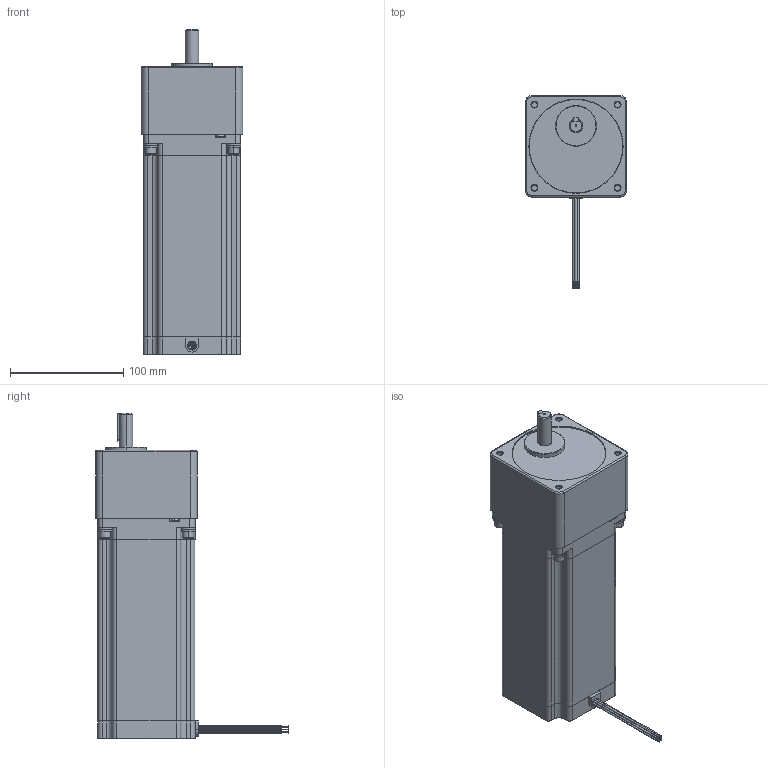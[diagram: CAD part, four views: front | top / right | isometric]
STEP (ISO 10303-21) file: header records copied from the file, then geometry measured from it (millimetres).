
FILE_DESCRIPTION (( 'STEP AP214' ), '1' );
FILE_NAME ('34YSG408S-LW8-R50.STEP', '2010-06-18T16:54:28', ( 'Tim Raines' ), ( 'Anaheim Automation' ), 'SwSTEP 2.0', 'SolidWorks 2010', '' );
FILE_SCHEMA (( 'AUTOMOTIVE_DESIGN' ));
Length unit declared in the file: millimetre
Products named in the file (6): 34YSG Motor_34YSG408S-LW8; Lock Washer Spring Regular_AI_Regular LW 0.25; 34SG Series_34SG2; Flat Washer Narrow_AM_B18.22M - Plain washer, 6 mm, narrow; Socket Head Cap Screw_AM_B18.3.1M - 6 x 1.0 x 20 Hex SHCS -- 20NHX; 34YSG408S-LW8-R50
Assembly tree (14 placements, depth 2):
  34YSG408S-LW8-R50
    Socket Head Cap Screw_AM_B18.3.1M - 6 x 1.0 x 20 Hex SHCS -- 20NHX  x4
    Lock Washer Spring Regular_AI_Regular LW 0.25  x4
    Flat Washer Narrow_AM_B18.22M - Plain washer, 6 mm, narrow  x4
    34SG Series_34SG2
    34YSG Motor_34YSG408S-LW8
Bounding box: 89.92 x 170.43 x 288.07 mm (x, y, z)
Volume: 1784122.7 mm3; surface area: 133865 mm2
Topology: 14 solids, 14 shells, 575 faces, 1363 edges, 848 vertices
Faces by surface type: plane 272, cylinder 190, cone 93, torus 20
Entity records: 18465 total; most frequent: CARTESIAN_POINT 2581, DIRECTION 2415, ORIENTED_EDGE 2214, EDGE_CURVE 1107, AXIS2_PLACEMENT_3D 895, VERTEX_POINT 701, VECTOR 625, LINE 625
